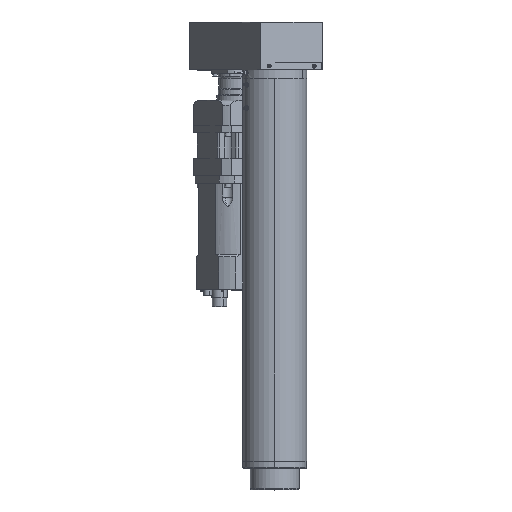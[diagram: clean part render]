
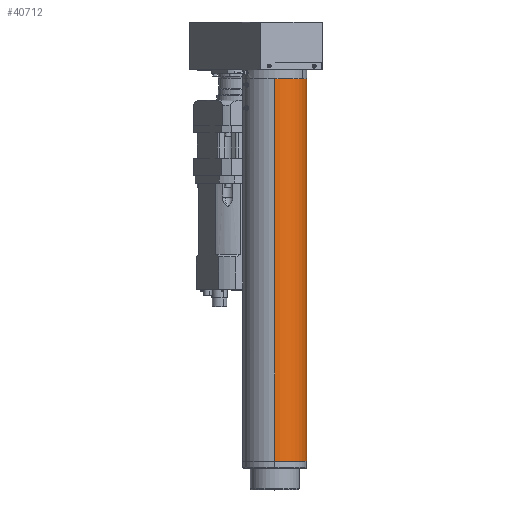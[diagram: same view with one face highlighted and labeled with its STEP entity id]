
A CAD part, top view. The second image highlights one B-rep face of the part: STEP entity #40712.
In plain terms, the highlighted cylindrical face has radius 89 mm (diameter 178 mm), a partial arc.
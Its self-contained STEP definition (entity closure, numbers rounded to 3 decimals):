
#1306 = ORIENTED_EDGE ( 'NONE', *, *, #60910, .F. ) ;
#1490 = DIRECTION ( 'NONE',  ( 0., -1., 0. ) ) ;
#2809 = AXIS2_PLACEMENT_3D ( 'NONE', #39108, #44676, #66066 ) ;
#4230 = FACE_OUTER_BOUND ( 'NONE', #55920, .T. ) ;
#12901 = CARTESIAN_POINT ( 'NONE',  ( 0., 1080., 0. ) ) ;
#13577 = CIRCLE ( 'NONE', #67210, 89. ) ;
#14795 = CARTESIAN_POINT ( 'NONE',  ( 0., 1080., 89. ) ) ;
#19247 = ORIENTED_EDGE ( 'NONE', *, *, #57301, .F. ) ;
#25176 = EDGE_CURVE ( 'NONE', #29975, #67230, #51038, .T. ) ;
#26773 = VECTOR ( 'NONE', #1490, 1000. ) ;
#29975 = VERTEX_POINT ( 'NONE', #14795 ) ;
#30228 = VECTOR ( 'NONE', #67125, 1000. ) ;
#30556 = EDGE_CURVE ( 'NONE', #41216, #29975, #13577, .T. ) ;
#30757 = VERTEX_POINT ( 'NONE', #36954 ) ;
#36954 = CARTESIAN_POINT ( 'NONE',  ( 0., 20., -89. ) ) ;
#37372 = CIRCLE ( 'NONE', #2809, 89. ) ;
#39108 = CARTESIAN_POINT ( 'NONE',  ( 0., 20., 0. ) ) ;
#39581 = LINE ( 'NONE', #44800, #26773 ) ;
#40712 = ADVANCED_FACE ( 'NONE', ( #4230 ), #58108, .T. ) ;
#41216 = VERTEX_POINT ( 'NONE', #44754 ) ;
#41566 = DIRECTION ( 'NONE',  ( 0., -1., 0. ) ) ;
#42248 = CARTESIAN_POINT ( 'NONE',  ( 0., 20., 89. ) ) ;
#44676 = DIRECTION ( 'NONE',  ( 0., -1., 0. ) ) ;
#44754 = CARTESIAN_POINT ( 'NONE',  ( 0., 1080., -89. ) ) ;
#44800 = CARTESIAN_POINT ( 'NONE',  ( 0., 0., -89. ) ) ;
#48982 = DIRECTION ( 'NONE',  ( 0., 0., -1. ) ) ;
#49485 = ORIENTED_EDGE ( 'NONE', *, *, #30556, .T. ) ;
#51038 = LINE ( 'NONE', #57961, #30228 ) ;
#53169 = DIRECTION ( 'NONE',  ( 0., 0., -1. ) ) ;
#55920 = EDGE_LOOP ( 'NONE', ( #49485, #69063, #19247, #1306 ) ) ;
#57301 = EDGE_CURVE ( 'NONE', #30757, #67230, #37372, .T. ) ;
#57961 = CARTESIAN_POINT ( 'NONE',  ( 0., 0., 89. ) ) ;
#58108 = CYLINDRICAL_SURFACE ( 'NONE', #67070, 89. ) ;
#58792 = CARTESIAN_POINT ( 'NONE',  ( 0., 0., 0. ) ) ;
#60910 = EDGE_CURVE ( 'NONE', #41216, #30757, #39581, .T. ) ;
#64712 = DIRECTION ( 'NONE',  ( 0., -1., 0. ) ) ;
#66066 = DIRECTION ( 'NONE',  ( 0., 0., -1. ) ) ;
#67070 = AXIS2_PLACEMENT_3D ( 'NONE', #58792, #41566, #53169 ) ;
#67125 = DIRECTION ( 'NONE',  ( 0., -1., 0. ) ) ;
#67210 = AXIS2_PLACEMENT_3D ( 'NONE', #12901, #64712, #48982 ) ;
#67230 = VERTEX_POINT ( 'NONE', #42248 ) ;
#69063 = ORIENTED_EDGE ( 'NONE', *, *, #25176, .T. ) ;
